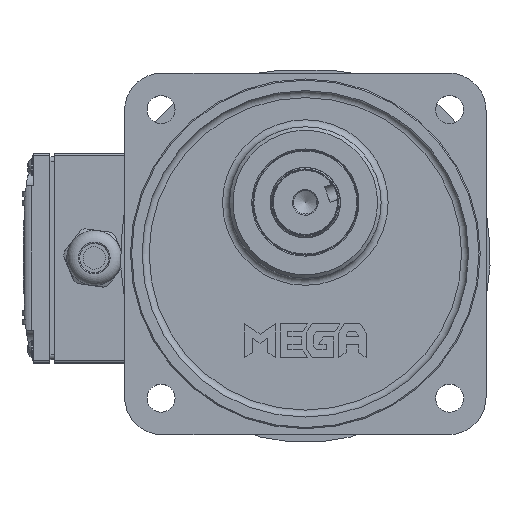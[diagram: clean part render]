
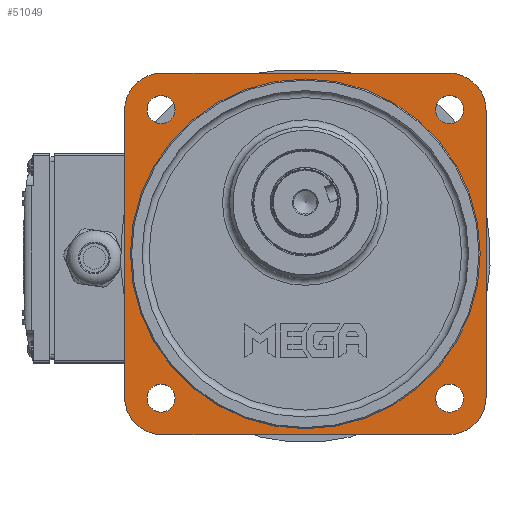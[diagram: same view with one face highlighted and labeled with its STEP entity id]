
A CAD part, top view. The second image highlights one B-rep face of the part: STEP entity #51049.
In plain terms, the highlighted planar face has unit normal (0, 0, 1).
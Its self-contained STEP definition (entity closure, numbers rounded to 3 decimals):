
#1109=FACE_BOUND('',#8174,.T.);
#1110=FACE_BOUND('',#8175,.T.);
#1111=FACE_BOUND('',#8176,.T.);
#1112=FACE_BOUND('',#8177,.T.);
#1113=FACE_BOUND('',#8178,.T.);
#2284=PLANE('',#56159);
#5070=FACE_OUTER_BOUND('',#8173,.T.);
#8173=EDGE_LOOP('',(#43096,#43097,#43098,#43099,#43100,#43101,#43102,#43103));
#8174=EDGE_LOOP('',(#43104));
#8175=EDGE_LOOP('',(#43105));
#8176=EDGE_LOOP('',(#43106));
#8177=EDGE_LOOP('',(#43107));
#8178=EDGE_LOOP('',(#43108));
#11213=CIRCLE('',#56157,75.);
#11215=CIRCLE('',#56160,16.);
#11216=CIRCLE('',#56161,16.);
#11217=CIRCLE('',#56162,16.);
#11218=CIRCLE('',#56163,16.);
#11219=CIRCLE('',#56164,6.);
#11220=CIRCLE('',#56165,6.);
#11221=CIRCLE('',#56166,6.);
#11222=CIRCLE('',#56167,6.);
#13677=LINE('',#113670,#16340);
#13678=LINE('',#113674,#16341);
#13679=LINE('',#113678,#16342);
#13680=LINE('',#113682,#16343);
#16340=VECTOR('',#68386,10.);
#16341=VECTOR('',#68389,10.);
#16342=VECTOR('',#68392,10.);
#16343=VECTOR('',#68395,10.);
#22360=VERTEX_POINT('',#113662);
#22362=VERTEX_POINT('',#113668);
#22363=VERTEX_POINT('',#113669);
#22364=VERTEX_POINT('',#113671);
#22365=VERTEX_POINT('',#113673);
#22366=VERTEX_POINT('',#113675);
#22367=VERTEX_POINT('',#113677);
#22368=VERTEX_POINT('',#113679);
#22369=VERTEX_POINT('',#113681);
#22370=VERTEX_POINT('',#113684);
#22371=VERTEX_POINT('',#113686);
#22372=VERTEX_POINT('',#113688);
#22373=VERTEX_POINT('',#113690);
#29349=EDGE_CURVE('',#22360,#22360,#11213,.T.);
#29352=EDGE_CURVE('',#22362,#22363,#13677,.T.);
#29353=EDGE_CURVE('',#22364,#22362,#11215,.T.);
#29354=EDGE_CURVE('',#22365,#22364,#13678,.T.);
#29355=EDGE_CURVE('',#22366,#22365,#11216,.T.);
#29356=EDGE_CURVE('',#22367,#22366,#13679,.T.);
#29357=EDGE_CURVE('',#22368,#22367,#11217,.T.);
#29358=EDGE_CURVE('',#22369,#22368,#13680,.T.);
#29359=EDGE_CURVE('',#22363,#22369,#11218,.T.);
#29360=EDGE_CURVE('',#22370,#22370,#11219,.T.);
#29361=EDGE_CURVE('',#22371,#22371,#11220,.T.);
#29362=EDGE_CURVE('',#22372,#22372,#11221,.T.);
#29363=EDGE_CURVE('',#22373,#22373,#11222,.T.);
#43096=ORIENTED_EDGE('',*,*,#29352,.F.);
#43097=ORIENTED_EDGE('',*,*,#29353,.F.);
#43098=ORIENTED_EDGE('',*,*,#29354,.F.);
#43099=ORIENTED_EDGE('',*,*,#29355,.F.);
#43100=ORIENTED_EDGE('',*,*,#29356,.F.);
#43101=ORIENTED_EDGE('',*,*,#29357,.F.);
#43102=ORIENTED_EDGE('',*,*,#29358,.F.);
#43103=ORIENTED_EDGE('',*,*,#29359,.F.);
#43104=ORIENTED_EDGE('',*,*,#29360,.F.);
#43105=ORIENTED_EDGE('',*,*,#29361,.F.);
#43106=ORIENTED_EDGE('',*,*,#29362,.F.);
#43107=ORIENTED_EDGE('',*,*,#29363,.F.);
#43108=ORIENTED_EDGE('',*,*,#29349,.F.);
#51049=ADVANCED_FACE('',(#5070,#1109,#1110,#1111,#1112,#1113),#2284,.F.);
#56157=AXIS2_PLACEMENT_3D('',#113663,#68379,#68380);
#56159=AXIS2_PLACEMENT_3D('',#113667,#68384,#68385);
#56160=AXIS2_PLACEMENT_3D('',#113672,#68387,#68388);
#56161=AXIS2_PLACEMENT_3D('',#113676,#68390,#68391);
#56162=AXIS2_PLACEMENT_3D('',#113680,#68393,#68394);
#56163=AXIS2_PLACEMENT_3D('',#113683,#68396,#68397);
#56164=AXIS2_PLACEMENT_3D('',#113685,#68398,#68399);
#56165=AXIS2_PLACEMENT_3D('',#113687,#68400,#68401);
#56166=AXIS2_PLACEMENT_3D('',#113689,#68402,#68403);
#56167=AXIS2_PLACEMENT_3D('',#113691,#68404,#68405);
#68379=DIRECTION('center_axis',(0.,0.,1.));
#68380=DIRECTION('ref_axis',(-1.,0.,0.));
#68384=DIRECTION('center_axis',(0.,0.,-1.));
#68385=DIRECTION('ref_axis',(-1.,0.,0.));
#68386=DIRECTION('',(1.,0.,0.));
#68387=DIRECTION('center_axis',(0.,0.,-1.));
#68388=DIRECTION('ref_axis',(0.,1.,0.));
#68389=DIRECTION('',(0.,1.,0.));
#68390=DIRECTION('center_axis',(0.,0.,-1.));
#68391=DIRECTION('ref_axis',(-1.,0.,0.));
#68392=DIRECTION('',(-1.,0.,0.));
#68393=DIRECTION('center_axis',(0.,0.,-1.));
#68394=DIRECTION('ref_axis',(0.,-1.,0.));
#68395=DIRECTION('',(0.,-1.,0.));
#68396=DIRECTION('center_axis',(0.,0.,-1.));
#68397=DIRECTION('ref_axis',(1.,0.,0.));
#68398=DIRECTION('center_axis',(0.,0.,1.));
#68399=DIRECTION('ref_axis',(-1.,0.,0.));
#68400=DIRECTION('center_axis',(0.,0.,1.));
#68401=DIRECTION('ref_axis',(-1.,0.,0.));
#68402=DIRECTION('center_axis',(0.,0.,1.));
#68403=DIRECTION('ref_axis',(-1.,0.,0.));
#68404=DIRECTION('center_axis',(0.,0.,1.));
#68405=DIRECTION('ref_axis',(-1.,0.,0.));
#113662=CARTESIAN_POINT('',(80.427,-1.956,28.5));
#113663=CARTESIAN_POINT('Origin',(5.427,-1.956,28.5));
#113667=CARTESIAN_POINT('Origin',(5.427,-1.956,28.5));
#113668=CARTESIAN_POINT('',(-56.073,75.544,28.5));
#113669=CARTESIAN_POINT('',(66.927,75.544,28.5));
#113670=CARTESIAN_POINT('',(-25.323,75.544,28.5));
#113671=CARTESIAN_POINT('',(-72.073,59.544,28.5));
#113672=CARTESIAN_POINT('Origin',(-56.073,59.544,28.5));
#113673=CARTESIAN_POINT('',(-72.073,-63.456,28.5));
#113674=CARTESIAN_POINT('',(-72.073,-32.706,28.5));
#113675=CARTESIAN_POINT('',(-56.073,-79.456,28.5));
#113676=CARTESIAN_POINT('Origin',(-56.073,-63.456,28.5));
#113677=CARTESIAN_POINT('',(66.927,-79.456,28.5));
#113678=CARTESIAN_POINT('',(36.177,-79.456,28.5));
#113679=CARTESIAN_POINT('',(82.927,-63.456,28.5));
#113680=CARTESIAN_POINT('Origin',(66.927,-63.456,28.5));
#113681=CARTESIAN_POINT('',(82.927,59.544,28.5));
#113682=CARTESIAN_POINT('',(82.927,28.794,28.5));
#113683=CARTESIAN_POINT('Origin',(66.927,59.544,28.5));
#113684=CARTESIAN_POINT('',(73.299,-63.828,28.5));
#113685=CARTESIAN_POINT('Origin',(67.299,-63.828,28.5));
#113686=CARTESIAN_POINT('',(-50.445,-63.828,28.5));
#113687=CARTESIAN_POINT('Origin',(-56.445,-63.828,28.5));
#113688=CARTESIAN_POINT('',(73.299,59.916,28.5));
#113689=CARTESIAN_POINT('Origin',(67.299,59.916,28.5));
#113690=CARTESIAN_POINT('',(-50.445,59.916,28.5));
#113691=CARTESIAN_POINT('Origin',(-56.445,59.916,28.5));
